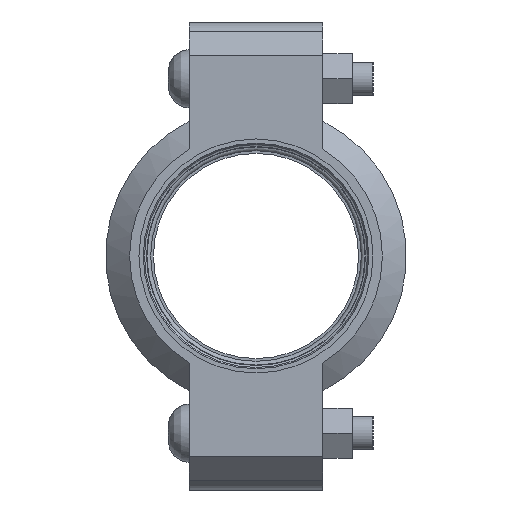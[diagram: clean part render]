
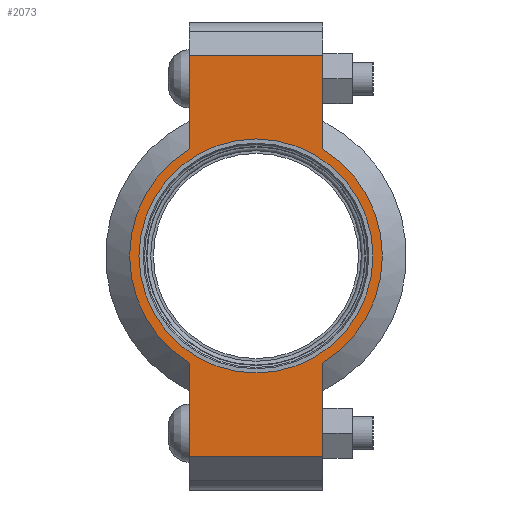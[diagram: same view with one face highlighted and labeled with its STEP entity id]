
A CAD part, left-side view. The second image highlights one B-rep face of the part: STEP entity #2073.
In plain terms, the highlighted planar face has unit normal (-1, 0, 0) as drawn and (0, 0, 1) by its records, which use the part's own axes.
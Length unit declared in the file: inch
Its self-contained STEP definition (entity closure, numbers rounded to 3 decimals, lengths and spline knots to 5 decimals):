
#206=LINE('',#3696,#305);
#214=LINE('',#3732,#313);
#221=LINE('',#3753,#320);
#230=LINE('',#3785,#329);
#231=LINE('',#3789,#330);
#232=LINE('',#3791,#331);
#305=VECTOR('',#3022,0.3937);
#313=VECTOR('',#3038,0.3937);
#320=VECTOR('',#3057,0.3937);
#329=VECTOR('',#3082,0.3937);
#330=VECTOR('',#3087,0.3937);
#331=VECTOR('',#3088,0.3937);
#391=FACE_BOUND('',#661,.T.);
#437=PLANE('',#2438);
#533=FACE_OUTER_BOUND('',#660,.T.);
#660=EDGE_LOOP('',(#1802,#1803,#1804,#1805,#1806,#1807,#1808,#1809));
#661=EDGE_LOOP('',(#1810));
#808=CIRCLE('',#2380,1.75);
#834=CIRCLE('',#2439,1.89);
#835=CIRCLE('',#2440,1.89);
#959=VERTEX_POINT('',#3512);
#1002=VERTEX_POINT('',#3693);
#1003=VERTEX_POINT('',#3695);
#1014=VERTEX_POINT('',#3727);
#1015=VERTEX_POINT('',#3731);
#1022=VERTEX_POINT('',#3750);
#1023=VERTEX_POINT('',#3752);
#1033=VERTEX_POINT('',#3788);
#1034=VERTEX_POINT('',#3790);
#1196=EDGE_CURVE('',#959,#959,#808,.T.);
#1257=EDGE_CURVE('',#1003,#1002,#206,.T.);
#1271=EDGE_CURVE('',#1015,#1014,#214,.T.);
#1281=EDGE_CURVE('',#1023,#1022,#221,.T.);
#1296=EDGE_CURVE('',#1015,#1002,#230,.T.);
#1297=EDGE_CURVE('',#1014,#1023,#834,.T.);
#1298=EDGE_CURVE('',#1033,#1022,#231,.T.);
#1299=EDGE_CURVE('',#1033,#1034,#232,.T.);
#1300=EDGE_CURVE('',#1034,#1003,#835,.T.);
#1802=ORIENTED_EDGE('',*,*,#1296,.F.);
#1803=ORIENTED_EDGE('',*,*,#1271,.T.);
#1804=ORIENTED_EDGE('',*,*,#1297,.T.);
#1805=ORIENTED_EDGE('',*,*,#1281,.T.);
#1806=ORIENTED_EDGE('',*,*,#1298,.F.);
#1807=ORIENTED_EDGE('',*,*,#1299,.T.);
#1808=ORIENTED_EDGE('',*,*,#1300,.T.);
#1809=ORIENTED_EDGE('',*,*,#1257,.T.);
#1810=ORIENTED_EDGE('',*,*,#1196,.T.);
#2073=ADVANCED_FACE('',(#533,#391),#437,.T.);
#2380=AXIS2_PLACEMENT_3D('',#3514,#2898,#2899);
#2438=AXIS2_PLACEMENT_3D('',#3786,#3083,#3084);
#2439=AXIS2_PLACEMENT_3D('',#3787,#3085,#3086);
#2440=AXIS2_PLACEMENT_3D('',#3792,#3089,#3090);
#2898=DIRECTION('center_axis',(0.,0.,-1.));
#2899=DIRECTION('ref_axis',(1.,0.,0.));
#3022=DIRECTION('',(1.,0.,0.));
#3038=DIRECTION('',(-1.,0.,0.));
#3057=DIRECTION('',(-1.,0.,0.));
#3082=DIRECTION('',(0.,-1.,0.));
#3083=DIRECTION('center_axis',(0.,0.,1.));
#3084=DIRECTION('ref_axis',(-1.,0.,0.));
#3085=DIRECTION('center_axis',(0.,0.,1.));
#3086=DIRECTION('ref_axis',(1.,0.,0.));
#3087=DIRECTION('',(0.,1.,0.));
#3088=DIRECTION('',(1.,0.,0.));
#3089=DIRECTION('center_axis',(0.,0.,1.));
#3090=DIRECTION('ref_axis',(1.,0.,0.));
#3512=CARTESIAN_POINT('',(-1.75,0.,0.94));
#3514=CARTESIAN_POINT('Origin',(0.,0.,0.94));
#3693=CARTESIAN_POINT('',(3.,-1.,0.94));
#3695=CARTESIAN_POINT('',(1.60378,-1.,0.94));
#3696=CARTESIAN_POINT('',(3.5,-1.,0.94));
#3727=CARTESIAN_POINT('',(1.60378,1.,0.94));
#3731=CARTESIAN_POINT('',(3.,1.,0.94));
#3732=CARTESIAN_POINT('',(-3.5,1.,0.94));
#3750=CARTESIAN_POINT('',(-3.,1.,0.94));
#3752=CARTESIAN_POINT('',(-1.60378,1.,0.94));
#3753=CARTESIAN_POINT('',(-3.5,1.,0.94));
#3785=CARTESIAN_POINT('',(3.,-0.5,0.94));
#3786=CARTESIAN_POINT('Origin',(0.,0.,
0.94));
#3787=CARTESIAN_POINT('Origin',(0.,0.,0.94));
#3788=CARTESIAN_POINT('',(-3.,-1.,0.94));
#3789=CARTESIAN_POINT('',(-3.,0.5,0.94));
#3790=CARTESIAN_POINT('',(-1.60378,-1.,0.94));
#3791=CARTESIAN_POINT('',(3.5,-1.,0.94));
#3792=CARTESIAN_POINT('Origin',(0.,0.,0.94));
